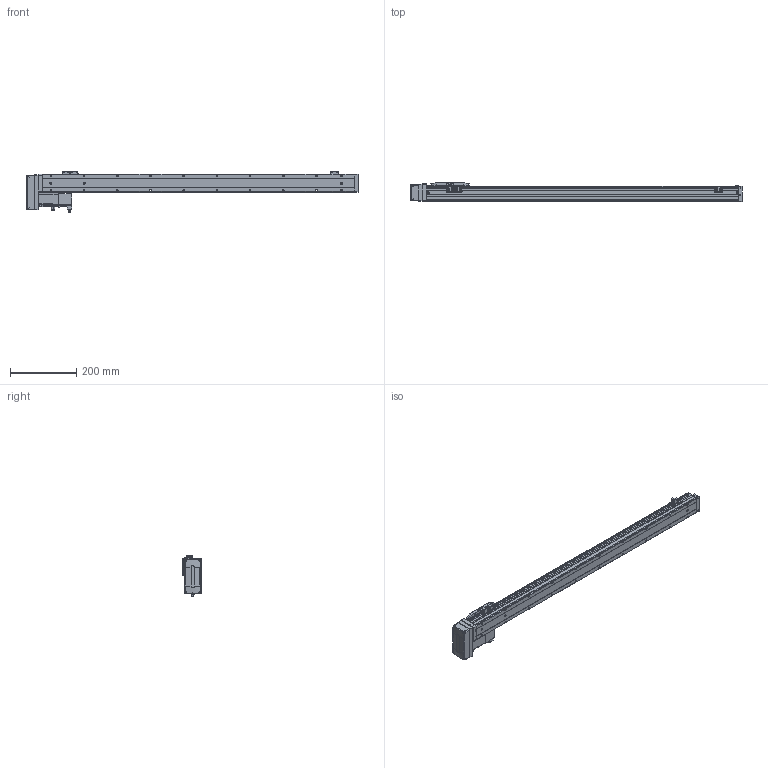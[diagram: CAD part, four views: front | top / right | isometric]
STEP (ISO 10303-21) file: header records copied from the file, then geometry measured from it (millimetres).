
FILE_DESCRIPTION (( 'STEP AP203' ), '1' );
FILE_NAME ('CTH5-L10-S800-BR-C10(¼ò).STEP', '2023-02-04T02:31:00', ( '' ), ( '' ), 'SwSTEP 2.0', 'SolidWorks 2018', '' );
FILE_SCHEMA (( 'CONFIG_CONTROL_DESIGN' ));
Length unit declared in the file: millimetre
Products named in the file (22): CTH5ヶ耜啣(潠); T10-p1; CTH5耜晚蹟隊-1; 葩璃 蚾饜极16^CTH5-L10-S800-BR-C10(潠); CTH5綴耜啣; 嫖萇羲壽郪磁1; CTH5-L10-S800-BR-C10(潠); PM-Y45; 内六角圆柱头螺钉M3-2; CTH嫖萇羲壽假蚾啣; 100W萇儂; 葩璃 蚾饜极13^CTH8-L10-S50-BM-C40(潠)1; CTH100W假蚾啣; hex nuts, style 1-grades ab gb_GB_FASTENER_NUT_SNAB1 M3-N; CTH5-BL-T10_body5; CTH5菁釱-L940; CTH5賑怢; CTH5覜茼え; CTH5耜蚾蟀諉啣(潠); CTH5耜蚾欶; M3｡｣; CTH5耜晚蹟隊
Assembly tree (37 placements, depth 4):
  CTH5-L10-S800-BR-C10(潠)
    CTH5綴耜啣
    CTH5賑怢
    CTH5ヶ耜啣(潠)
    CTH5菁釱-L940
    CTH5耜晚蹟隊  x2
    嫖萇羲壽郪磁1  x2
      CTH嫖萇羲壽假蚾啣
      PM-Y45
      M3｡｣
      内六角圆柱头螺钉M3-2
      hex nuts, style 1-grades ab gb_GB_FASTENER_NUT_SNAB1 M3-N
    CTH5覜茼え
    葩璃 蚾饜极13^CTH8-L10-S50-BM-C40(潠)1
      CTH嫖萇羲壽假蚾啣
      PM-Y45
      内六角圆柱头螺钉M3-2  x2
      M3｡｣  x2
      hex nuts, style 1-grades ab gb_GB_FASTENER_NUT_SNAB1 M3-N  x2
    CTH5耜晚蹟隊-1  x4
    葩璃 蚾饜极16^CTH5-L10-S800-BR-C10(潠)
      CTH5耜蚾蟀諉啣(潠)
      CTH5耜蚾欶
        CTH5-BL-T10_body5
      100W萇儂
        T10-p1
      CTH100W假蚾啣
Bounding box: 1000 x 60 x 126.31 mm (x, y, z)
Volume: 2385304.7 mm3; surface area: 326293.4 mm2
Topology: 39 solids, 39 shells, 1643 faces, 4135 edges, 2664 vertices
Faces by surface type: plane 890, cylinder 480, cone 215, torus 40, bspline 18
Entity records: 38677 total; most frequent: CARTESIAN_POINT 7168, DIRECTION 6139, ORIENTED_EDGE 5894, EDGE_CURVE 2947, AXIS2_PLACEMENT_3D 2126, VERTEX_POINT 1892, LINE 1887, VECTOR 1887
